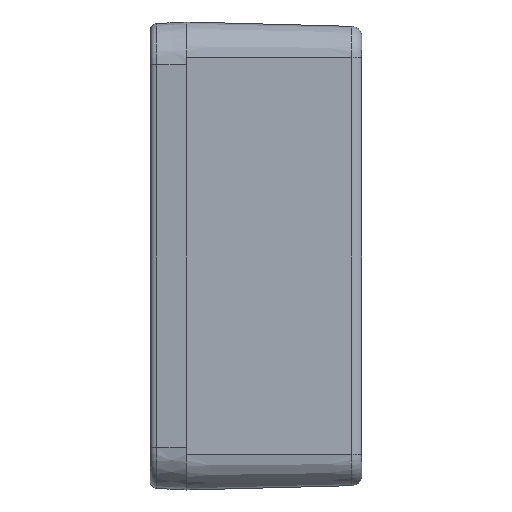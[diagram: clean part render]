
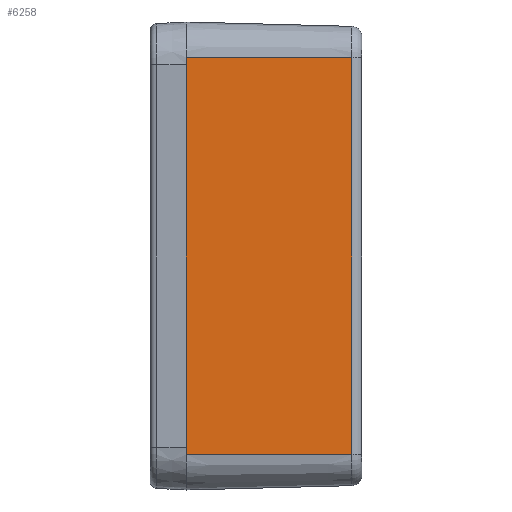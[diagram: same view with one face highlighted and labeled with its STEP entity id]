
A CAD part, left-side view. The second image highlights one B-rep face of the part: STEP entity #6258.
In plain terms, the highlighted planar face has unit normal (-1, -0.026, 0).
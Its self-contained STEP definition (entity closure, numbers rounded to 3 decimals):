
#283 = ORIENTED_EDGE ( 'NONE', *, *, #3961, .F. ) ;
#399 = CARTESIAN_POINT ( 'NONE',  ( -57.6, 0., -27.9 ) ) ;
#448 = EDGE_CURVE ( 'NONE', #8049, #1529, #4741, .T. ) ;
#513 = LINE ( 'NONE', #2923, #7146 ) ;
#627 = CARTESIAN_POINT ( 'NONE',  ( -56.991, -23.239, 27.9 ) ) ;
#927 = CARTESIAN_POINT ( 'NONE',  ( -57.6, 0., -27.9 ) ) ;
#1136 = CARTESIAN_POINT ( 'NONE',  ( -56.991, -23.239, -27.9 ) ) ;
#1266 = VECTOR ( 'NONE', #3280, 1000. ) ;
#1529 = VERTEX_POINT ( 'NONE', #4043 ) ;
#1670 = LINE ( 'NONE', #7095, #1266 ) ;
#2923 = CARTESIAN_POINT ( 'NONE',  ( -57.6, 0., 27.9 ) ) ;
#3087 = ORIENTED_EDGE ( 'NONE', *, *, #8198, .F. ) ;
#3112 = CARTESIAN_POINT ( 'NONE',  ( -57.6, 0., 27.9 ) ) ;
#3280 = DIRECTION ( 'NONE',  ( -0.026, 1., 0. ) ) ;
#3628 = VERTEX_POINT ( 'NONE', #927 ) ;
#3961 = EDGE_CURVE ( 'NONE', #3628, #6244, #513, .T. ) ;
#4043 = CARTESIAN_POINT ( 'NONE',  ( -56.991, -23.239, 27.9 ) ) ;
#4741 = LINE ( 'NONE', #627, #7785 ) ;
#4758 = DIRECTION ( 'NONE',  ( -1., -0.026, 0. ) ) ;
#5484 = CARTESIAN_POINT ( 'NONE',  ( -57.6, 0., 27.9 ) ) ;
#5591 = PLANE ( 'NONE',  #8585 ) ;
#6088 = VECTOR ( 'NONE', #6138, 1000. ) ;
#6138 = DIRECTION ( 'NONE',  ( -0.026, 1., 0. ) ) ;
#6244 = VERTEX_POINT ( 'NONE', #3112 ) ;
#6258 = ADVANCED_FACE ( 'NONE', ( #6287 ), #5591, .T. ) ;
#6287 = FACE_OUTER_BOUND ( 'NONE', #6440, .T. ) ;
#6440 = EDGE_LOOP ( 'NONE', ( #3087, #9544, #10242, #283 ) ) ;
#6786 = DIRECTION ( 'NONE',  ( 0., 0., 1. ) ) ;
#7095 = CARTESIAN_POINT ( 'NONE',  ( -57.6, 0., 27.9 ) ) ;
#7146 = VECTOR ( 'NONE', #6786, 1000. ) ;
#7785 = VECTOR ( 'NONE', #10312, 1000. ) ;
#8025 = DIRECTION ( 'NONE',  ( 0.026, -1., 0. ) ) ;
#8049 = VERTEX_POINT ( 'NONE', #1136 ) ;
#8198 = EDGE_CURVE ( 'NONE', #8049, #3628, #8417, .T. ) ;
#8417 = LINE ( 'NONE', #399, #6088 ) ;
#8585 = AXIS2_PLACEMENT_3D ( 'NONE', #5484, #4758, #8025 ) ;
#9544 = ORIENTED_EDGE ( 'NONE', *, *, #448, .T. ) ;
#9558 = EDGE_CURVE ( 'NONE', #1529, #6244, #1670, .T. ) ;
#10242 = ORIENTED_EDGE ( 'NONE', *, *, #9558, .T. ) ;
#10312 = DIRECTION ( 'NONE',  ( 0., 0., 1. ) ) ;
